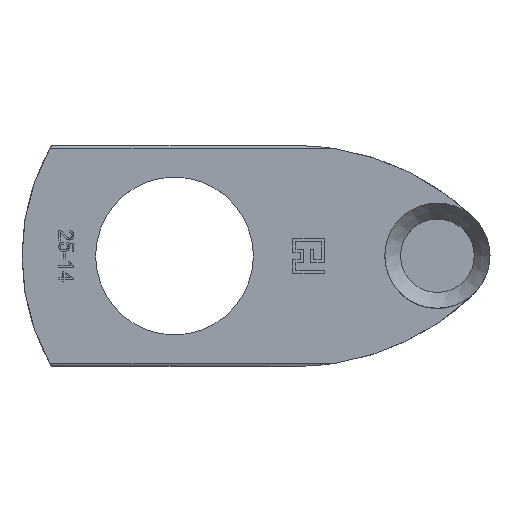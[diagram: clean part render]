
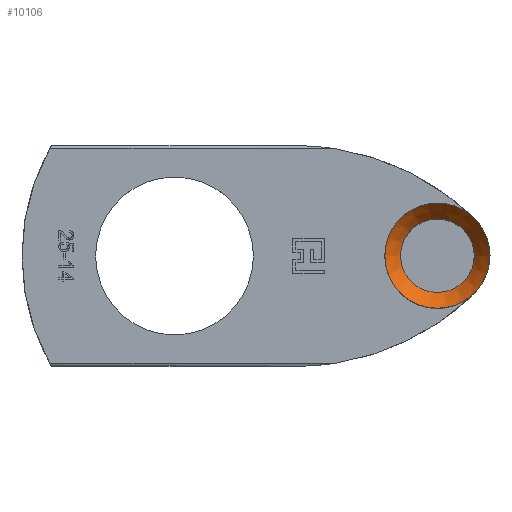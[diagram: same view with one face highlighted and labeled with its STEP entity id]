
A CAD part, top view. The second image highlights one B-rep face of the part: STEP entity #10106.
In plain terms, the highlighted conical face has half-angle 36.87 degrees and reference radius 3.5 mm.
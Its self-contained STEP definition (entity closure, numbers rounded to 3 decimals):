
#207 = CYLINDRICAL_SURFACE('',#208,5.);
#208 = AXIS2_PLACEMENT_3D('',#209,#210,#211);
#209 = CARTESIAN_POINT('',(39.5,0.,6.907));
#210 = DIRECTION('',(-0.,-0.,-1.));
#211 = DIRECTION('',(1.,0.,0.));
#10054 = VERTEX_POINT('',#10055);
#10055 = CARTESIAN_POINT('',(44.5,0.,21.907));
#10075 = EDGE_CURVE('',#10054,#10054,#10076,.T.);
#10076 = SURFACE_CURVE('',#10077,(#10082,#10089),.PCURVE_S1.);
#10077 = CIRCLE('',#10078,5.);
#10078 = AXIS2_PLACEMENT_3D('',#10079,#10080,#10081);
#10079 = CARTESIAN_POINT('',(39.5,0.,21.907));
#10080 = DIRECTION('',(0.,0.,1.));
#10081 = DIRECTION('',(1.,0.,0.));
#10082 = PCURVE('',#207,#10083);
#10083 = DEFINITIONAL_REPRESENTATION('',(#10084),#10088);
#10084 = LINE('',#10085,#10086);
#10085 = CARTESIAN_POINT('',(-0.,-15.));
#10086 = VECTOR('',#10087,1.);
#10087 = DIRECTION('',(-1.,0.));
#10088 = ( GEOMETRIC_REPRESENTATION_CONTEXT(2) 
PARAMETRIC_REPRESENTATION_CONTEXT() REPRESENTATION_CONTEXT('2D SPACE',''
  ) );
#10089 = PCURVE('',#10090,#10095);
#10090 = CONICAL_SURFACE('',#10091,3.5,0.644);
#10091 = AXIS2_PLACEMENT_3D('',#10092,#10093,#10094);
#10092 = CARTESIAN_POINT('',(39.5,0.,19.907));
#10093 = DIRECTION('',(0.,0.,1.));
#10094 = DIRECTION('',(1.,0.,0.));
#10095 = DEFINITIONAL_REPRESENTATION('',(#10096),#10099);
#10096 = B_SPLINE_CURVE_WITH_KNOTS('',1,(#10097,#10098),.UNSPECIFIED.,
  .F.,.F.,(2,2),(0.,6.283),.PIECEWISE_BEZIER_KNOTS.);
#10097 = CARTESIAN_POINT('',(0.,2.));
#10098 = CARTESIAN_POINT('',(6.283,2.));
#10099 = ( GEOMETRIC_REPRESENTATION_CONTEXT(2) 
PARAMETRIC_REPRESENTATION_CONTEXT() REPRESENTATION_CONTEXT('2D SPACE',''
  ) );
#10106 = ADVANCED_FACE('',(#10107),#10090,.F.);
#10107 = FACE_BOUND('',#10108,.F.);
#10108 = EDGE_LOOP('',(#10109,#10110,#10133,#10160));
#10109 = ORIENTED_EDGE('',*,*,#10075,.F.);
#10110 = ORIENTED_EDGE('',*,*,#10111,.F.);
#10111 = EDGE_CURVE('',#10112,#10054,#10114,.T.);
#10112 = VERTEX_POINT('',#10113);
#10113 = CARTESIAN_POINT('',(43.,0.,19.907));
#10114 = SEAM_CURVE('',#10115,(#10119,#10126),.PCURVE_S1.);
#10115 = LINE('',#10116,#10117);
#10116 = CARTESIAN_POINT('',(43.,0.,19.907));
#10117 = VECTOR('',#10118,1.);
#10118 = DIRECTION('',(0.6,0.,0.8));
#10119 = PCURVE('',#10090,#10120);
#10120 = DEFINITIONAL_REPRESENTATION('',(#10121),#10125);
#10121 = LINE('',#10122,#10123);
#10122 = CARTESIAN_POINT('',(6.283,-0.));
#10123 = VECTOR('',#10124,1.);
#10124 = DIRECTION('',(0.,1.));
#10125 = ( GEOMETRIC_REPRESENTATION_CONTEXT(2) 
PARAMETRIC_REPRESENTATION_CONTEXT() REPRESENTATION_CONTEXT('2D SPACE',''
  ) );
#10126 = PCURVE('',#10090,#10127);
#10127 = DEFINITIONAL_REPRESENTATION('',(#10128),#10132);
#10128 = LINE('',#10129,#10130);
#10129 = CARTESIAN_POINT('',(0.,-0.));
#10130 = VECTOR('',#10131,1.);
#10131 = DIRECTION('',(0.,1.));
#10132 = ( GEOMETRIC_REPRESENTATION_CONTEXT(2) 
PARAMETRIC_REPRESENTATION_CONTEXT() REPRESENTATION_CONTEXT('2D SPACE',''
  ) );
#10133 = ORIENTED_EDGE('',*,*,#10134,.T.);
#10134 = EDGE_CURVE('',#10112,#10112,#10135,.T.);
#10135 = SURFACE_CURVE('',#10136,(#10141,#10148),.PCURVE_S1.);
#10136 = CIRCLE('',#10137,3.5);
#10137 = AXIS2_PLACEMENT_3D('',#10138,#10139,#10140);
#10138 = CARTESIAN_POINT('',(39.5,0.,19.907));
#10139 = DIRECTION('',(0.,0.,1.));
#10140 = DIRECTION('',(1.,0.,0.));
#10141 = PCURVE('',#10090,#10142);
#10142 = DEFINITIONAL_REPRESENTATION('',(#10143),#10147);
#10143 = LINE('',#10144,#10145);
#10144 = CARTESIAN_POINT('',(0.,0.));
#10145 = VECTOR('',#10146,1.);
#10146 = DIRECTION('',(1.,0.));
#10147 = ( GEOMETRIC_REPRESENTATION_CONTEXT(2) 
PARAMETRIC_REPRESENTATION_CONTEXT() REPRESENTATION_CONTEXT('2D SPACE',''
  ) );
#10148 = PCURVE('',#10149,#10154);
#10149 = CYLINDRICAL_SURFACE('',#10150,3.5);
#10150 = AXIS2_PLACEMENT_3D('',#10151,#10152,#10153);
#10151 = CARTESIAN_POINT('',(39.5,0.,6.907));
#10152 = DIRECTION('',(-0.,-0.,-1.));
#10153 = DIRECTION('',(1.,0.,0.));
#10154 = DEFINITIONAL_REPRESENTATION('',(#10155),#10159);
#10155 = LINE('',#10156,#10157);
#10156 = CARTESIAN_POINT('',(-0.,-13.));
#10157 = VECTOR('',#10158,1.);
#10158 = DIRECTION('',(-1.,0.));
#10159 = ( GEOMETRIC_REPRESENTATION_CONTEXT(2) 
PARAMETRIC_REPRESENTATION_CONTEXT() REPRESENTATION_CONTEXT('2D SPACE',''
  ) );
#10160 = ORIENTED_EDGE('',*,*,#10111,.T.);
